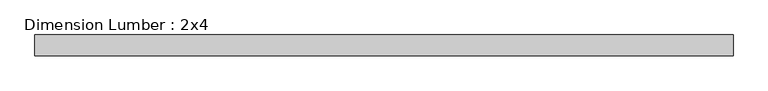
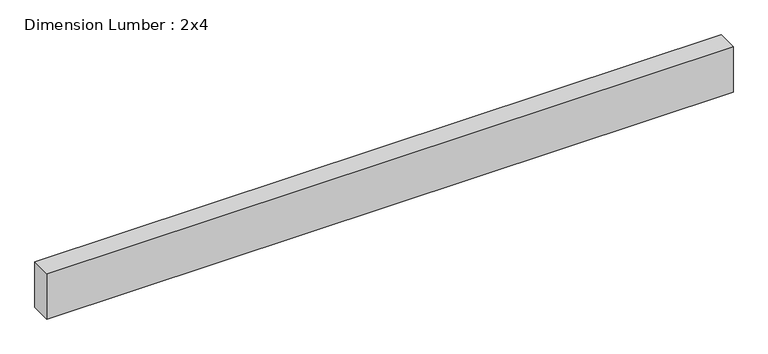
"""IFC4 building model written with IfcOpenShell, lengths in millimetres: beam geometry, Dimension Lumber : 2x4."""

from ifc_helpers import new_model, si_unit, frame, origin, place, context, project, spatial, polyline, outline, extrude, source, transform, mapped, element, save


def dimension_lumber_2x4_c0021dba(model_context):
    return source(origin(), model_context, "Body", "SweptSolid", [
        extrude(outline(polyline([(633.4529634, 19.05), (633.4529634, -19.05), (-633.4529634, -19.05), (-633.4529634, 19.05), (633.4529634, 19.05)])), frame((0.0, 0.0, -44.45), z_axis=(0.0, 0.0, 1.0), x_axis=(1.0, 0.0, 0.0)), (0.0, 0.0, 1.0), 88.9),
    ])


if __name__ == "__main__":
    model = new_model("IFC4")
    model_context = context("Model", 3, world=origin())
    ifc_project = project(units=[si_unit("LENGTHUNIT", "METRE", prefix="MILLI")], contexts=[model_context])
    site = spatial("IfcSite", under=ifc_project)
    building = spatial("IfcBuilding", under=site)
    placement = place(None, origin())
    dimension_lumber_2x4_shape = dimension_lumber_2x4_c0021dba(model_context)
    element("IfcBeam", 1, ObjectType="Dimension Lumber : 2x4", at=placement, inside=building, context=model_context, shape_type="MappedRepresentation", body=[
        mapped(dimension_lumber_2x4_shape, transform((0.0, 0.0, 0.0), x_axis=(1.0, 0.0, 0.0), y_axis=(0.0, 1.0, 0.0), z_axis=(0.0, 0.0, 1.0))),
    ])
    save(model, "model.ifc")
